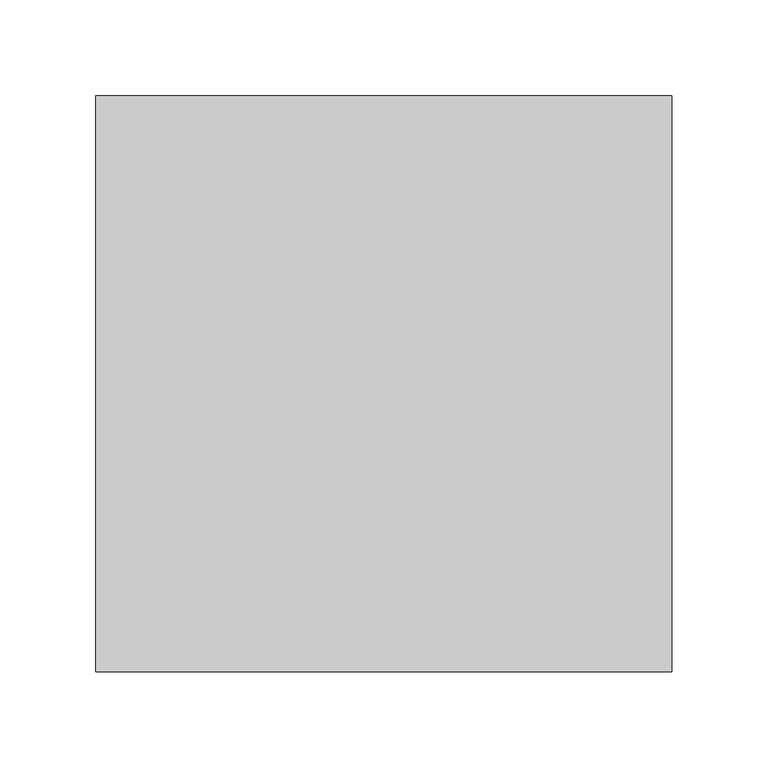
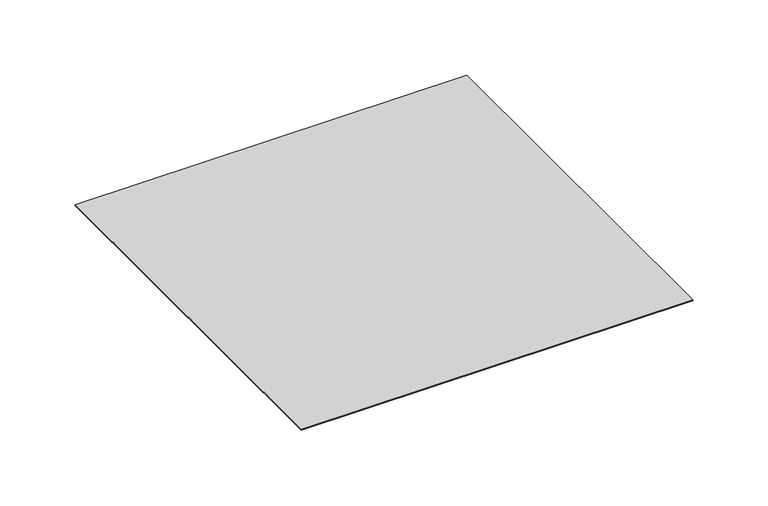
"""IFC4 building model written with IfcOpenShell, lengths in millimetres: proxy geometry, Loggia_Placeholder : Loggia Placeholder."""

from ifc_helpers import new_model, si_unit, origin, origin_with_axes, place, context, project, spatial, polyline, outline, extrude, source, transform, mapped, element, save


def generic_models_6cfe643e(model_context):
    return source(origin(), model_context, "Body", "SweptSolid", [
        extrude(outline(polyline([(-150.0, 150.0), (150.0, 150.0), (150.0, -150.0), (-150.0, -150.0), (-150.0, 150.0)])), origin_with_axes(), (0.0, 0.0, 1.0), 0.79375),
    ])


if __name__ == "__main__":
    model = new_model("IFC4")
    model_context = context("Model", 3, world=origin())
    ifc_project = project(units=[si_unit("LENGTHUNIT", "METRE", prefix="MILLI")], contexts=[model_context])
    site = spatial("IfcSite", under=ifc_project)
    building = spatial("IfcBuilding", under=site)
    placement = place(None, origin())
    generic_models_shape = generic_models_6cfe643e(model_context)
    element("IfcBuildingElementProxy", 1, Name="Loggia_Placeholder : Loggia Placeholder", ObjectType="Loggia_Placeholder : Loggia Placeholder", at=placement, inside=building, context=model_context, shape_type="MappedRepresentation", body=[
        mapped(generic_models_shape, transform((0.0, 0.0, 0.0), x_axis=(1.0, 0.0, 0.0), y_axis=(0.0, 1.0, 0.0), z_axis=(0.0, 0.0, 1.0))),
    ])
    save(model, "model.ifc")
